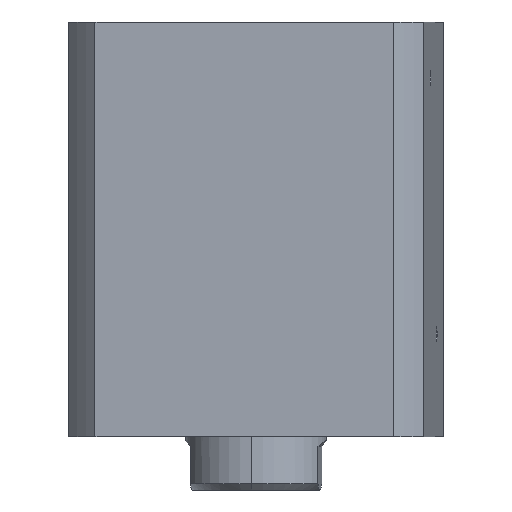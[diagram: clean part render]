
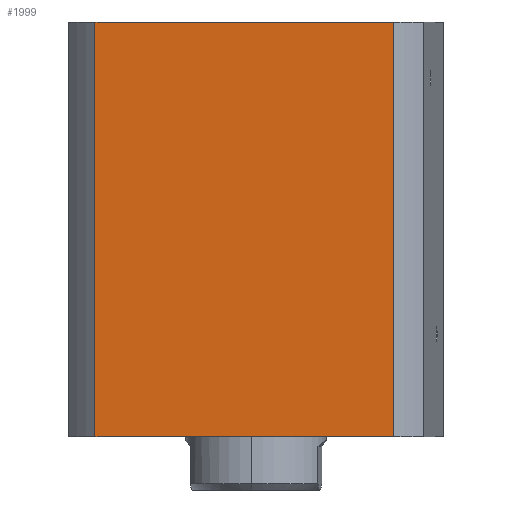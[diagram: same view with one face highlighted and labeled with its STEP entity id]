
A CAD part, front view. The second image highlights one B-rep face of the part: STEP entity #1999.
In plain terms, the highlighted planar face has unit normal (-0.066, -0.998, 0) as drawn and (-1, 0, 0) by its records, which use the part's own axes.
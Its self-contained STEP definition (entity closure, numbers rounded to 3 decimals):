
#644 = CARTESIAN_POINT ( 'NONE',  ( -57., -47.971, 133. ) ) ;
#1119 = LINE ( 'NONE', #5209, #13671 ) ;
#1447 = VERTEX_POINT ( 'NONE', #644 ) ;
#1503 = EDGE_CURVE ( 'NONE', #11464, #3516, #5857, .T. ) ;
#1999 = ADVANCED_FACE ( 'NONE', ( #4741 ), #2009, .F. ) ;
#2009 = PLANE ( 'NONE',  #3037 ) ;
#2731 = VECTOR ( 'NONE', #6535, 1000. ) ;
#2804 = EDGE_CURVE ( 'NONE', #11464, #13246, #8926, .T. ) ;
#3037 = AXIS2_PLACEMENT_3D ( 'NONE', #9136, #5644, #13876 ) ;
#3336 = VECTOR ( 'NONE', #6488, 1000. ) ;
#3516 = VERTEX_POINT ( 'NONE', #6348 ) ;
#3704 = LINE ( 'NONE', #12361, #3336 ) ;
#4741 = FACE_OUTER_BOUND ( 'NONE', #4792, .T. ) ;
#4792 = EDGE_LOOP ( 'NONE', ( #6251, #11968, #9188, #13444 ) ) ;
#5209 = CARTESIAN_POINT ( 'NONE',  ( -57., -47.971, -167. ) ) ;
#5254 = DIRECTION ( 'NONE',  ( 0., 0., -1. ) ) ;
#5478 = CARTESIAN_POINT ( 'NONE',  ( -57., -47.971, 0. ) ) ;
#5644 = DIRECTION ( 'NONE',  ( 1., 0., 0. ) ) ;
#5682 = EDGE_CURVE ( 'NONE', #1447, #13246, #1119, .T. ) ;
#5857 = LINE ( 'NONE', #7595, #2731 ) ;
#6251 = ORIENTED_EDGE ( 'NONE', *, *, #1503, .F. ) ;
#6348 = CARTESIAN_POINT ( 'NONE',  ( -57., 47.971, 133. ) ) ;
#6364 = DIRECTION ( 'NONE',  ( 0., -1., 0. ) ) ;
#6367 = EDGE_CURVE ( 'NONE', #3516, #1447, #3704, .T. ) ;
#6488 = DIRECTION ( 'NONE',  ( 0., -1., 0. ) ) ;
#6535 = DIRECTION ( 'NONE',  ( 0., 0., 1. ) ) ;
#7595 = CARTESIAN_POINT ( 'NONE',  ( -57., 47.971, -167. ) ) ;
#8926 = LINE ( 'NONE', #13424, #15168 ) ;
#9136 = CARTESIAN_POINT ( 'NONE',  ( -57., 57., 133. ) ) ;
#9188 = ORIENTED_EDGE ( 'NONE', *, *, #5682, .F. ) ;
#11464 = VERTEX_POINT ( 'NONE', #14997 ) ;
#11968 = ORIENTED_EDGE ( 'NONE', *, *, #2804, .T. ) ;
#12361 = CARTESIAN_POINT ( 'NONE',  ( -57., 57., 133. ) ) ;
#13246 = VERTEX_POINT ( 'NONE', #5478 ) ;
#13424 = CARTESIAN_POINT ( 'NONE',  ( -57., 57., 0. ) ) ;
#13444 = ORIENTED_EDGE ( 'NONE', *, *, #6367, .F. ) ;
#13671 = VECTOR ( 'NONE', #5254, 1000. ) ;
#13876 = DIRECTION ( 'NONE',  ( 0., 1., 0. ) ) ;
#14997 = CARTESIAN_POINT ( 'NONE',  ( -57., 47.971, 0. ) ) ;
#15168 = VECTOR ( 'NONE', #6364, 1000. ) ;
